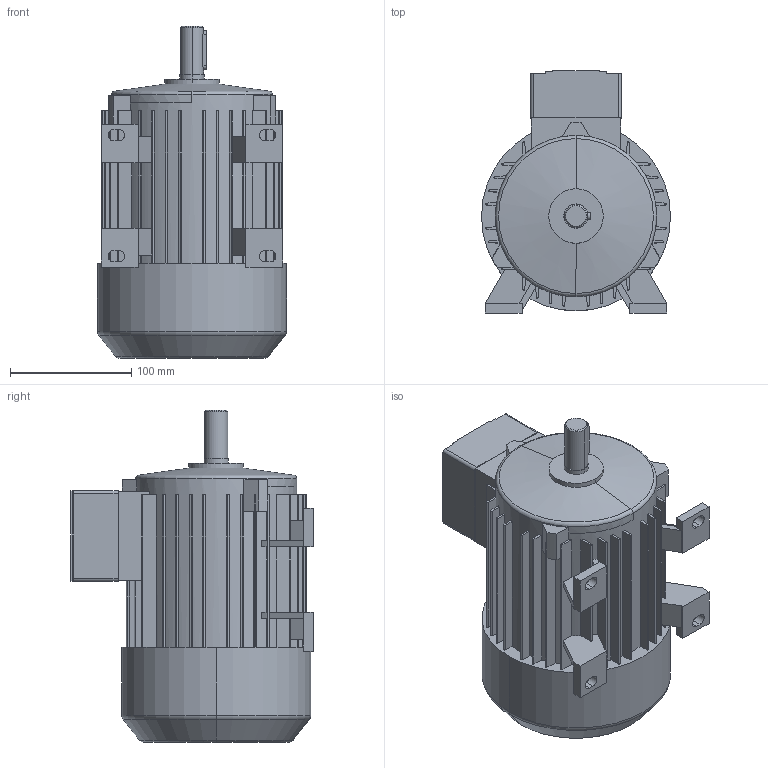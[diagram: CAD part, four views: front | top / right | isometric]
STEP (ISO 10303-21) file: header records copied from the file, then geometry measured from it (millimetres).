
FILE_DESCRIPTION((''),'2;1');
FILE_NAME('1LA7080-2AA10_PRT','2002-04-12T',('martin könig'),(''),'PRO/ENGINEER BY PARAMETRIC TECHNOLOGY CORPORATION, 2002030','PRO/ENGINEER BY PARAMETRIC TECHNOLOGY CORPORATION, 2002030','');
FILE_SCHEMA(('CONFIG_CONTROL_DESIGN'));
Length unit declared in the file: millimetre
Products named in the file (1): 1LA7080-2AA10_PRT
Bounding box: 156 x 200 x 274 mm (x, y, z)
Volume: 3885246.9 mm3; surface area: 232331.4 mm2
Topology: 1 solids, 1 shells, 304 faces, 861 edges, 565 vertices
Faces by surface type: plane 210, cylinder 82, torus 6, cone 6
Entity records: 9948 total; most frequent: CARTESIAN_POINT 1759, DIRECTION 1727, ORIENTED_EDGE 1722, EDGE_CURVE 861, VECTOR 599, LINE 599, VERTEX_POINT 565, AXIS2_PLACEMENT_3D 564
